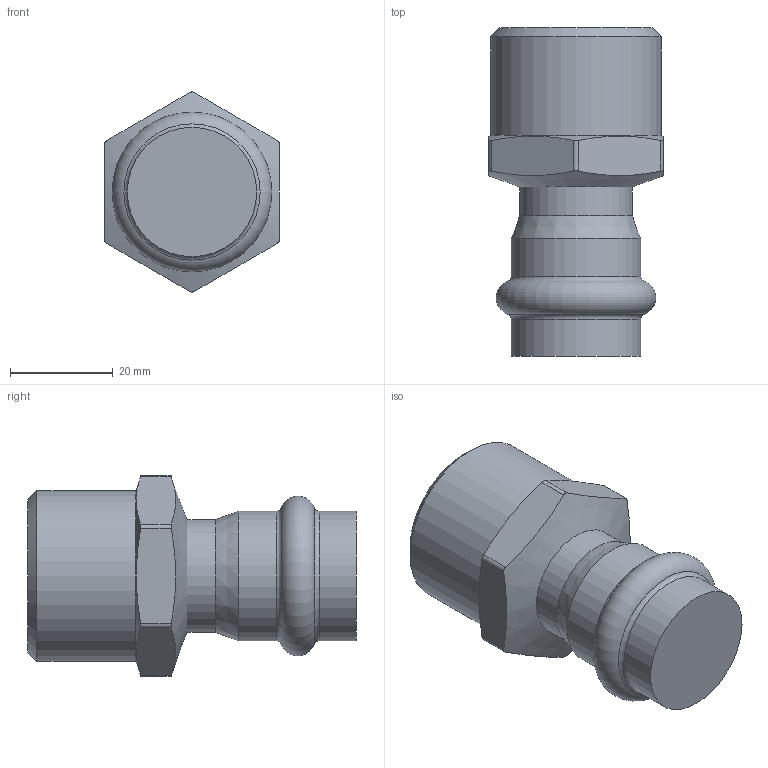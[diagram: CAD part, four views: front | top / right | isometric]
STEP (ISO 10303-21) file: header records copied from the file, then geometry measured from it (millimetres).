
FILE_DESCRIPTION(('STEP AP203'), '1');
FILE_NAME('VTi.901.I.002206', '', ('UNSPECIFIED'), ('UNSPECIFIED'), 'C3D Converter', 'C3D Toolkit', '');
FILE_SCHEMA(('CONFIG_CONTROL_DESIGN'));
Length unit declared in the file: millimetre
Bounding box: 34 x 64 x 38.95 mm (x, y, z)
Volume: 44056.8 mm3; surface area: 7945.6 mm2
Topology: 1 solids, 1 shells, 25 faces, 61 edges, 38 vertices
Faces by surface type: cylinder 10, plane 8, cone 4, torus 3
Full cylindrical faces by diameter (mm): 22 x1, 25.2 x2, 33.249 x1
Entity records: 1475 total; most frequent: CARTESIAN_POINT 933, ORIENTED_EDGE 100, DIRECTION 88, EDGE_CURVE 50, AXIS2_PLACEMENT_3D 38, VERTEX_POINT 38, EDGE_LOOP 36, B_SPLINE_CURVE_WITH_KNOTS 26
